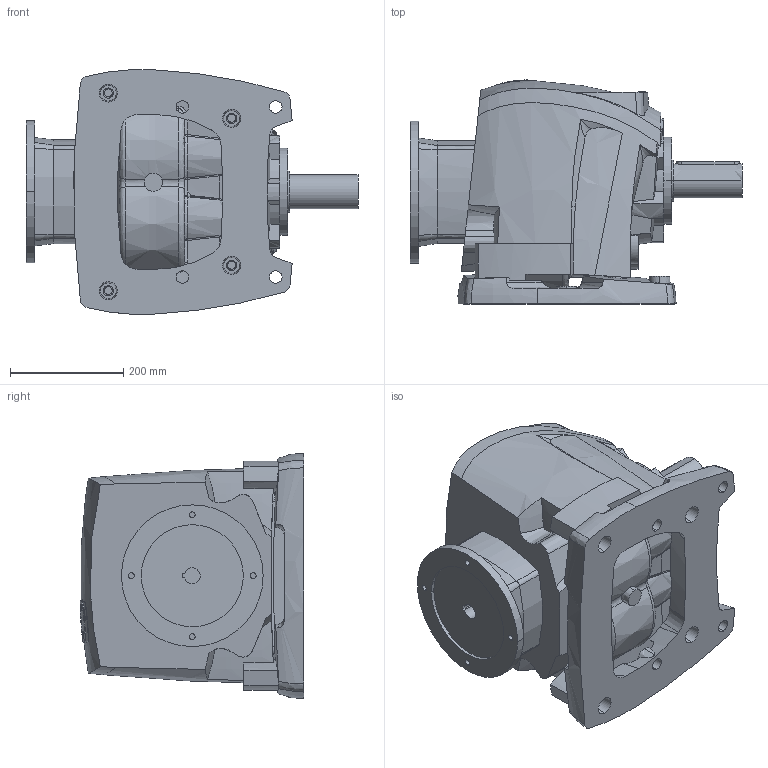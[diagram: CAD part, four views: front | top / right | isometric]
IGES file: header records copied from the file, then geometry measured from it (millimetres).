
Start section:  PTC IGES file: r60_bf_pam100112.igs
Global section: file name: r60_bf_pam100112.igs; native system: Pro/ENGINEER by Parametric Technology Corporation; preprocessor: 2008230; author: Luca; organization: Unknown; date: 20131224.151634; units: millimetre
Bounding box: 585.5 x 394.94 x 431.2 mm (x, y, z)
Volume: 43233604.2 mm3; surface area: 1121032.5 mm2
Topology: 1 solids, 1 shells, 542 faces, 1499 edges, 998 vertices
Faces by surface type: bspline 275, revolution 266, extrusion 1
